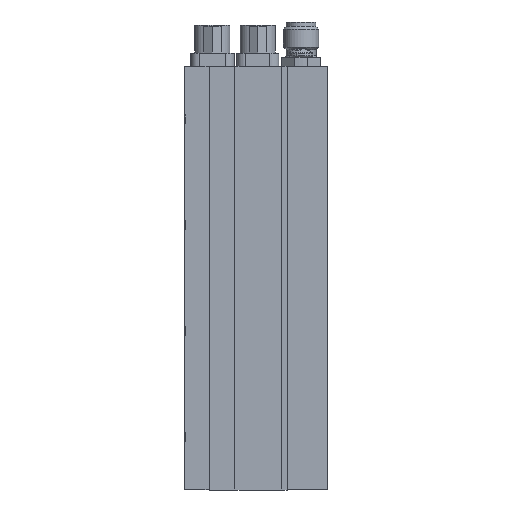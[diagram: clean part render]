
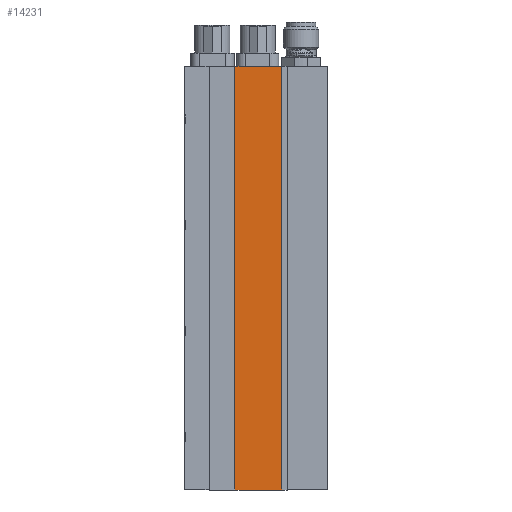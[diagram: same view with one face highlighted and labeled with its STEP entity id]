
A CAD part, left-side view. The second image highlights one B-rep face of the part: STEP entity #14231.
In plain terms, the highlighted planar face has unit normal (-1, 0, 0).
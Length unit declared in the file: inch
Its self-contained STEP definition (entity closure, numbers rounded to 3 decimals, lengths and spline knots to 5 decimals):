
#5486 = ORIENTED_EDGE ( 'NONE', *, *, #11951, .T. ) ;
#5487 = ORIENTED_EDGE ( 'NONE', *, *, #11942, .F. ) ;
#5488 = ORIENTED_EDGE ( 'NONE', *, *, #11959, .F. ) ;
#5489 = ORIENTED_EDGE ( 'NONE', *, *, #11956, .T. ) ;
#7584 = CARTESIAN_POINT ( 'NONE',  ( -1.24135, 0.35071, 1.73728 ) ) ;
#7592 = DIRECTION ( 'NONE',  ( 0., -1., 0. ) ) ;
#7620 = DIRECTION ( 'NONE',  ( 0., 0., 1. ) ) ;
#7621 = CARTESIAN_POINT ( 'NONE',  ( -1.24135, 0.02071, -1.26272 ) ) ;
#7643 = DIRECTION ( 'NONE',  ( 0., -1., 0. ) ) ;
#7652 = CARTESIAN_POINT ( 'NONE',  ( -1.24135, 0.35071, -1.26272 ) ) ;
#7658 = DIRECTION ( 'NONE',  ( 0., 0., 1. ) ) ;
#7666 = CARTESIAN_POINT ( 'NONE',  ( -1.24135, 0.35071, -1.26272 ) ) ;
#11942 = EDGE_CURVE ( 'NONE', #31555, #32649, #26013, .T. ) ;
#11951 = EDGE_CURVE ( 'NONE', #32601, #32649, #26038, .T. ) ;
#11956 = EDGE_CURVE ( 'NONE', #31463, #32601, #26044, .T. ) ;
#11959 = EDGE_CURVE ( 'NONE', #31463, #31555, #26049, .T. ) ;
#14231 = ADVANCED_FACE ( 'NONE', ( #23599 ), #14807, .F. ) ;
#14802 = CARTESIAN_POINT ( 'NONE',  ( -1.24135, 0.35071, -1.26272 ) ) ;
#14807 = PLANE ( 'NONE',  #16912 ) ;
#14810 = DIRECTION ( 'NONE',  ( 1., 0., 0. ) ) ;
#14811 = DIRECTION ( 'NONE',  ( 0., 0., -1. ) ) ;
#16912 = AXIS2_PLACEMENT_3D ( 'NONE', #14802, #14810, #14811 ) ;
#23599 = FACE_OUTER_BOUND ( 'NONE', #30559, .T. ) ;
#25336 = CARTESIAN_POINT ( 'NONE',  ( -1.24135, 0.35071, -1.26272 ) ) ;
#25428 = CARTESIAN_POINT ( 'NONE',  ( -1.24135, 0.35071, 1.73728 ) ) ;
#26013 = LINE ( 'NONE', #7584, #26017 ) ;
#26017 = VECTOR ( 'NONE', #7592, 39.37008 ) ;
#26038 = LINE ( 'NONE', #7621, #26042 ) ;
#26042 = VECTOR ( 'NONE', #7620, 39.37008 ) ;
#26044 = LINE ( 'NONE', #7652, #26051 ) ;
#26049 = LINE ( 'NONE', #7666, #26058 ) ;
#26051 = VECTOR ( 'NONE', #7643, 39.37008 ) ;
#26058 = VECTOR ( 'NONE', #7658, 39.37008 ) ;
#30559 = EDGE_LOOP ( 'NONE', ( #5486, #5487, #5488, #5489 ) ) ;
#31463 = VERTEX_POINT ( 'NONE', #25336 ) ;
#31555 = VERTEX_POINT ( 'NONE', #25428 ) ;
#32601 = VERTEX_POINT ( 'NONE', #35560 ) ;
#32649 = VERTEX_POINT ( 'NONE', #35603 ) ;
#35560 = CARTESIAN_POINT ( 'NONE',  ( -1.24135, 0.02071, -1.26272 ) ) ;
#35603 = CARTESIAN_POINT ( 'NONE',  ( -1.24135, 0.02071, 1.73728 ) ) ;
